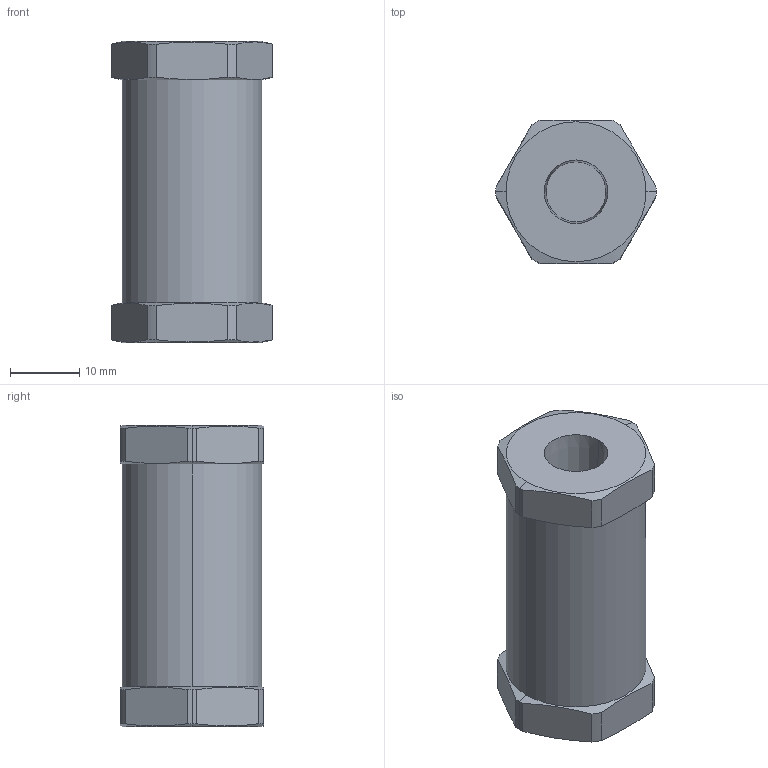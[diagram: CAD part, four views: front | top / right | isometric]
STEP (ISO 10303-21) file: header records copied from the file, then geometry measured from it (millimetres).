
FILE_DESCRIPTION (( 'STEP AP203' ), '1' );
FILE_NAME ('CV-125B-__-__.STEP', '2011-11-04T21:10:34', ( 'Tim' ), ( 'Microsoft' ), 'SwSTEP 2.0', 'SolidWorks 2011', '' );
FILE_SCHEMA (( 'CONFIG_CONTROL_DESIGN' ));
Length unit declared in the file: inch
Products named in the file (1): CV-125B-__-__
Bounding box: 23.08 x 20.65 x 43.33 mm (x, y, z)
Volume: 13307 mm3; surface area: 4050.3 mm2
Topology: 1 solids, 1 shells, 44 faces, 112 edges, 72 vertices
Faces by surface type: cylinder 16, plane 16, cone 12
Entity records: 1491 total; most frequent: CARTESIAN_POINT 349, DIRECTION 226, ORIENTED_EDGE 224, EDGE_CURVE 112, AXIS2_PLACEMENT_3D 93, VERTEX_POINT 72, CIRCLE 48, EDGE_LOOP 46
